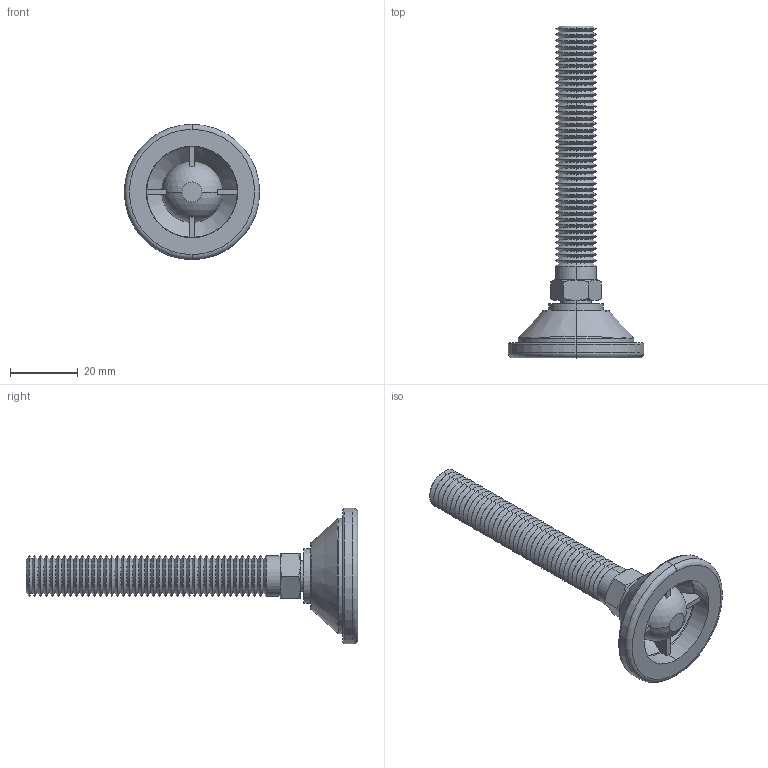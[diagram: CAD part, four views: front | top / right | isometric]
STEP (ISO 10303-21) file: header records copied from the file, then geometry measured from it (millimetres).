
FILE_DESCRIPTION (( 'STEP AP203' ), '1' );
FILE_NAME ('34741.W0122.step', '2016-09-22T07:41:07', ( 'User' ), ( '' ), 'SwSTEP 2.0', 'SolidWorks 2009', '' );
FILE_SCHEMA (( 'CONFIG_CONTROL_DESIGN' ));
Length unit declared in the file: millimetre
Products named in the file (3): 34741.W0122; Part1_34741.W0122; Part2_34741.W0122
Assembly tree (2 placements, depth 2):
  34741.W0122
    Part1_34741.W0122
    Part2_34741.W0122
Bounding box: 40 x 98 x 40 mm (x, y, z)
Volume: 16665.3 mm3; surface area: 10267.7 mm2
Topology: 2 solids, 2 shells, 240 faces, 516 edges, 282 vertices
Faces by surface type: cone 182, plane 26, cylinder 14, torus 12, sphere 6
Entity records: 6745 total; most frequent: CARTESIAN_POINT 1237, DIRECTION 1222, ORIENTED_EDGE 1014, AXIS2_PLACEMENT_3D 510, EDGE_CURVE 507, VERTEX_POINT 277, CIRCLE 265, EDGE_LOOP 246
